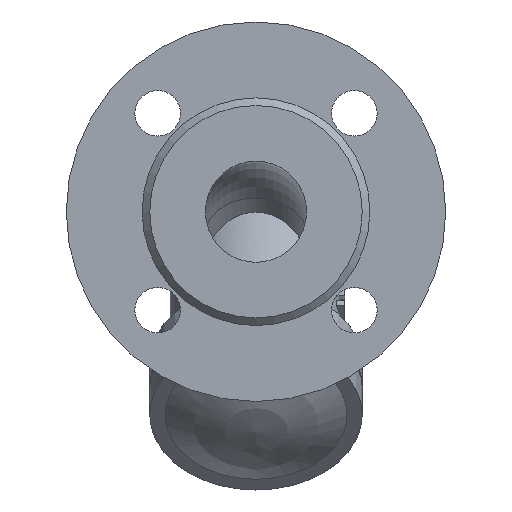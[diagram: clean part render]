
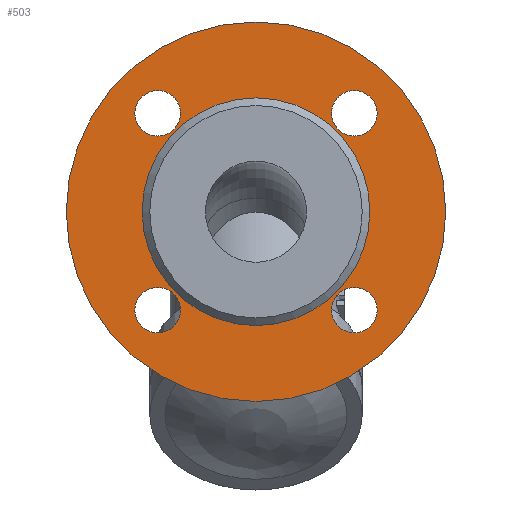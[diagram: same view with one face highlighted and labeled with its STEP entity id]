
A CAD part, front view. The second image highlights one B-rep face of the part: STEP entity #503.
In plain terms, the highlighted planar face has unit normal (0, -1, 0).
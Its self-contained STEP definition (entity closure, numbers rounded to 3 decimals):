
#503=ADVANCED_FACE('',(#1074,#1076,#1078,#1080,#1082,#1084),#1086,.T.);
#1074=FACE_BOUND('',#1075,.T.);
#1075=EDGE_LOOP('',(#1438));
#1076=FACE_BOUND('',#1077,.T.);
#1077=EDGE_LOOP('',(#1439));
#1078=FACE_BOUND('',#1079,.T.);
#1079=EDGE_LOOP('',(#1440));
#1080=FACE_BOUND('',#1081,.T.);
#1081=EDGE_LOOP('',(#1441));
#1082=FACE_BOUND('',#1083,.T.);
#1083=EDGE_LOOP('',(#1442));
#1084=FACE_BOUND('',#1085,.T.);
#1085=EDGE_LOOP('',(#1443));
#1086=PLANE('',#1087);
#1087=AXIS2_PLACEMENT_3D('',#1088,#1089,#1090);
#1088=CARTESIAN_POINT('',(0.,-97.,0.));
#1089=DIRECTION('',(0.,-1.,0.));
#1090=DIRECTION('',(0.,0.,1.));
#1438=ORIENTED_EDGE('',*,*,#1572,.F.);
#1439=ORIENTED_EDGE('',*,*,#1576,.T.);
#1440=ORIENTED_EDGE('',*,*,#1575,.T.);
#1441=ORIENTED_EDGE('',*,*,#1574,.T.);
#1442=ORIENTED_EDGE('',*,*,#1583,.T.);
#1443=ORIENTED_EDGE('',*,*,#1573,.T.);
#1572=EDGE_CURVE('',#1760,#1760,#1761,.T.);
#1573=EDGE_CURVE('',#1762,#1762,#1763,.F.);
#1574=EDGE_CURVE('',#1764,#1764,#1765,.F.);
#1575=EDGE_CURVE('',#1766,#1766,#1767,.F.);
#1576=EDGE_CURVE('',#1768,#1768,#1769,.F.);
#1583=EDGE_CURVE('',#1782,#1782,#1783,.T.);
#1760=VERTEX_POINT('',#2990);
#1761=CIRCLE('',#2991,75.);
#1762=VERTEX_POINT('',#2995);
#1763=CIRCLE('',#2996,9.);
#1764=VERTEX_POINT('',#3000);
#1765=CIRCLE('',#3001,9.);
#1766=VERTEX_POINT('',#3005);
#1767=CIRCLE('',#3006,9.);
#1768=VERTEX_POINT('',#3010);
#1769=CIRCLE('',#3011,9.);
#1782=VERTEX_POINT('',#3045);
#1783=CIRCLE('',#3046,45.);
#2990=CARTESIAN_POINT('',(0.,-97.,75.));
#2991=AXIS2_PLACEMENT_3D('',#2992,#2993,#2994);
#2992=CARTESIAN_POINT('',(0.,-97.,0.));
#2993=DIRECTION('',(0.,1.,0.));
#2994=DIRECTION('',(0.,0.,1.));
#2995=CARTESIAN_POINT('',(-29.891,-97.,38.891));
#2996=AXIS2_PLACEMENT_3D('',#2997,#2998,#2999);
#2997=CARTESIAN_POINT('',(-38.891,-97.,38.891));
#2998=DIRECTION('',(0.,-1.,0.));
#2999=DIRECTION('',(1.,0.,0.));
#3000=CARTESIAN_POINT('',(-38.891,-97.,-29.891));
#3001=AXIS2_PLACEMENT_3D('',#3002,#3003,#3004);
#3002=CARTESIAN_POINT('',(-38.891,-97.,-38.891));
#3003=DIRECTION('',(0.,-1.,0.));
#3004=DIRECTION('',(0.,0.,1.));
#3005=CARTESIAN_POINT('',(29.891,-97.,-38.891));
#3006=AXIS2_PLACEMENT_3D('',#3007,#3008,#3009);
#3007=CARTESIAN_POINT('',(38.891,-97.,-38.891));
#3008=DIRECTION('',(0.,-1.,0.));
#3009=DIRECTION('',(-1.,0.,0.));
#3010=CARTESIAN_POINT('',(38.891,-97.,29.891));
#3011=AXIS2_PLACEMENT_3D('',#3012,#3013,#3014);
#3012=CARTESIAN_POINT('',(38.891,-97.,38.891));
#3013=DIRECTION('',(0.,-1.,0.));
#3014=DIRECTION('',(0.,0.,-1.));
#3045=CARTESIAN_POINT('',(0.,-97.,45.));
#3046=AXIS2_PLACEMENT_3D('',#3047,#3048,#3049);
#3047=CARTESIAN_POINT('',(0.,-97.,0.));
#3048=DIRECTION('',(0.,1.,0.));
#3049=DIRECTION('',(0.,0.,1.));
